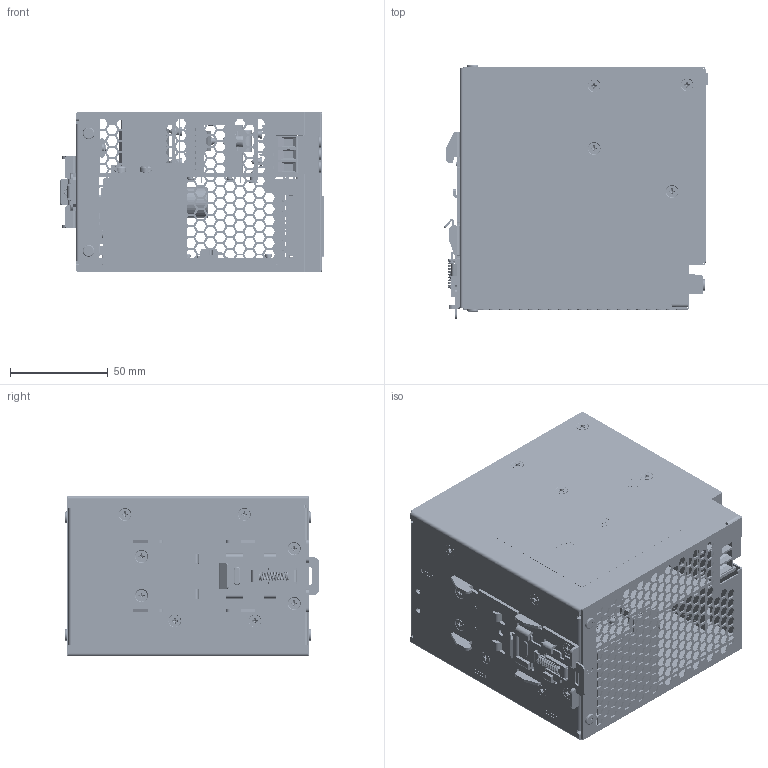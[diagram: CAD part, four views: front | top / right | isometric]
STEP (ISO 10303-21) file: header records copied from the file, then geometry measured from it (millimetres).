
FILE_DESCRIPTION((''),'2;1');
FILE_NAME('DRM-24V480W1PN_ASM','2016-04-04T',('siriporn.s'),(''),'PRO/ENGINEER BY PARAMETRIC TECHNOLOGY CORPORATION, 2010180','PRO/ENGINEER BY PARAMETRIC TECHNOLOGY CORPORATION, 2010180','');
FILE_SCHEMA(('CONFIG_CONTROL_DESIGN','SHAPE_APPEARANCE_LAYERS_GROUPS'));
Products named in the file (119): CHASSIS; HS-T1-CHASSIS; 330323400101; MAINBOARD; 3461420800; DCT2061; BMB420-508MA02; BMB420U103; BMB420P201; ASSEM1_ASM; OUTPUT-CONNECTOR_ASM; CONNF-14; ASSY_DCT2061_ASM; DCT2164; 3460375301; 791077003-SIGNAL; CONNEC-4PIN; DCT-2059; C824; C825; DCT-2059_ASM; ASSY-DCT2164_ASM; HS4; Q1; Q2; INSULATOR-TO220; 3105452200; 3460405500; ASSY-HS4_ASM; SR350; SR351; L1; VR750; LED750; LED751; 3105263700; INSULATORPP; 3470422400; HS-L1; HST1-PWB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
Assembly tree (171 placements, depth 6):
  DRM-24V480W1PN_ASM
    CHASSIS
    HS-T1-CHASSIS
    330323400101
    ASSY_MAINBOARD_ASM
      MAINBOARD
      3461420800  x3
      ASSY_DCT2061_ASM
        DCT2061
        OUTPUT-CONNECTOR_ASM
          ASSEM1_ASM  x3
            BMB420-508MA02
            BMB420U103
            BMB420P201
        CONNF-14
      ASSY-DCT2164_ASM
        DCT2164
        3460375301  x2
        791077003-SIGNAL
        CONNEC-4PIN
        DCT-2059_ASM
          DCT-2059
          C824
          C825
      ASSY-HS4_ASM
        HS4
        Q1
        Q2
        INSULATOR-TO220  x2
        3105452200
        3460405500
      SR350
      SR351
      L1
      VR750
      LED750
      LED751
      3105263700  x2
      INSULATORPP
      3470422400  x3
      HS-L1
      HST1-PWB
      THERMALPAD-L1
      SCREWL-L6
      SCREWM2-L5  x4
      PAD-HST1-PWB
      INHSUNDER-T1
      CERAMIC
      516-PQ4040_ASM
        516-PQ4040_ANY_ASM
          BOSS-EXTRUDE5_8_
          BOSS-EXTRUDE5_5_
          BOSS-EXTRUDE5_7_
          BOSS-EXTRUDE5_9_
          BOSS-EXTRUDE5_10_
          BOSS-EXTRUDE5_6_
          BOSS-EXTRUDE5_1_
          BOSS-EXTRUDE5_11_
          BOSS-EXTRUDE5_3_
          BOSS-EXTRUDE5_2_
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Bounding box: 135.14 x 130 x 82.08 mm (x, y, z)
Volume: 373939.5 mm3; surface area: 425902.6 mm2
Topology: 185 solids, 185 shells, 13618 faces, 35925 edges, 22919 vertices
Faces by surface type: plane 10049, cylinder 2244, extrusion 405, cone 394, bspline 338, torus 154, sphere 34
Entity records: 381756 total; most frequent: CARTESIAN_POINT 71883, ORIENTED_EDGE 56206, DIRECTION 52656, EDGE_CURVE 28103, VECTOR 23636, LINE 23501, VERTEX_POINT 18256, AXIS2_PLACEMENT_3D 14510
